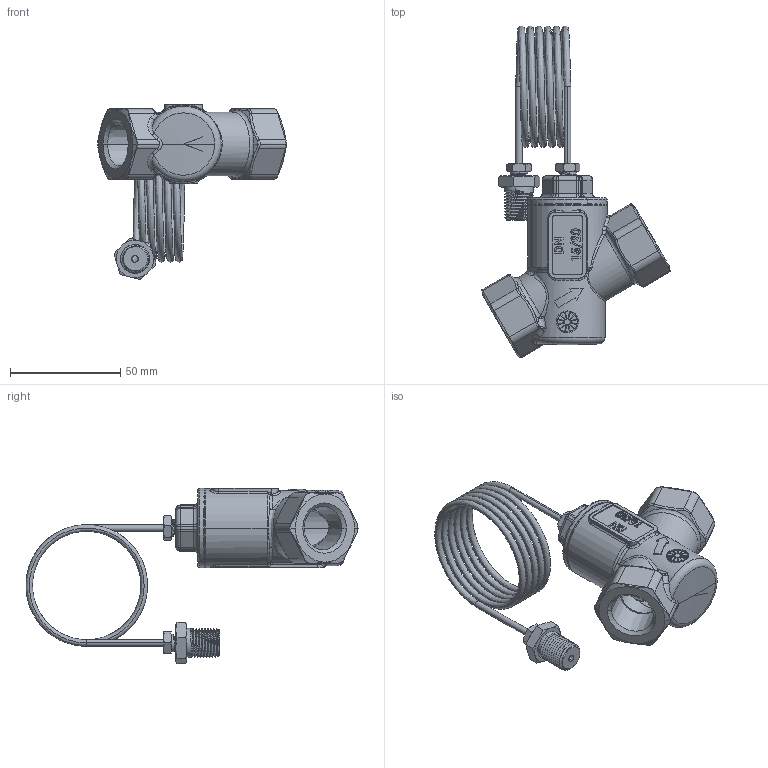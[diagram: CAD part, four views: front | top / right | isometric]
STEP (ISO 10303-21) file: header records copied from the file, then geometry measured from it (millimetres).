
FILE_DESCRIPTION (( 'STEP AP203' ), '1' );
FILE_NAME ('SDP.20 AHouse DN15 ISO FF.step', '2024-04-12T07:28:03', ( '' ), ( '' ), 'SwSTEP 2.0', 'SolidWorks 2023', '' );
FILE_SCHEMA (( 'CONFIG_CONTROL_DESIGN' ));
Length unit declared in the file: millimetre
Products named in the file (1): SDP.20 AHouse DN15 ISO FF
Bounding box: 85.65 x 150.88 x 79.69 mm (x, y, z)
Surface area: 32214 mm2 (no closed solid volume)
Topology: 0 solids, 13 shells, 687 faces, 1958 edges, 1255 vertices
Faces by surface type: plane 228, cylinder 199, bspline 119, torus 66, cone 57, sphere 18
Entity records: 35147 total; most frequent: CARTESIAN_POINT 18686, ORIENTED_EDGE 3479, DIRECTION 3154, EDGE_CURVE 1932, VERTEX_POINT 1251, AXIS2_PLACEMENT_3D 1180, VECTOR 794, LINE 794
